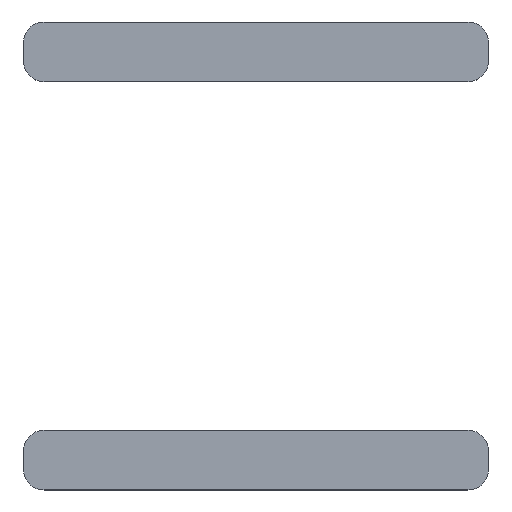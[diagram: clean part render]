
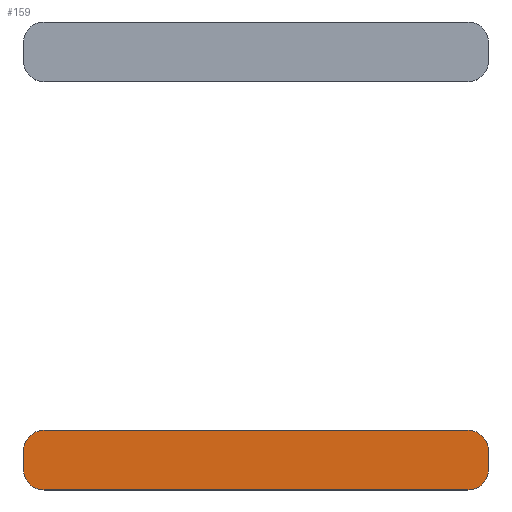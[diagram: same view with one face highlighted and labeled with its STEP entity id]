
A CAD part, top view. The second image highlights one B-rep face of the part: STEP entity #159.
In plain terms, the highlighted planar face has unit normal (0, 0, 1).
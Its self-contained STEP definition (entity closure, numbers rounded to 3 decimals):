
#43 = EDGE_CURVE('',#44,#46,#48,.T.);
#44 = VERTEX_POINT('',#45);
#45 = CARTESIAN_POINT('',(-14.8,-60.6,-2.3));
#46 = VERTEX_POINT('',#47);
#47 = CARTESIAN_POINT('',(-14.8,-59.4,-2.3));
#48 = SURFACE_CURVE('',#49,(#53,#65),.PCURVE_S1.);
#49 = LINE('',#50,#51);
#50 = CARTESIAN_POINT('',(-14.8,-61.9,-2.3));
#51 = VECTOR('',#52,1.);
#52 = DIRECTION('',(-0.,1.,0.));
#53 = PCURVE('',#54,#59);
#54 = PLANE('',#55);
#55 = AXIS2_PLACEMENT_3D('',#56,#57,#58);
#56 = CARTESIAN_POINT('',(-14.8,-61.9,-4.6));
#57 = DIRECTION('',(1.,0.,-0.));
#58 = DIRECTION('',(0.,0.,1.));
#59 = DEFINITIONAL_REPRESENTATION('',(#60),#64);
#60 = LINE('',#61,#62);
#61 = CARTESIAN_POINT('',(2.3,0.));
#62 = VECTOR('',#63,1.);
#63 = DIRECTION('',(0.,-1.));
#64 = ( GEOMETRIC_REPRESENTATION_CONTEXT(2) 
PARAMETRIC_REPRESENTATION_CONTEXT() REPRESENTATION_CONTEXT('2D SPACE',''
  ) );
#65 = PCURVE('',#66,#71);
#66 = PLANE('',#67);
#67 = AXIS2_PLACEMENT_3D('',#68,#69,#70);
#68 = CARTESIAN_POINT('',(-14.8,-61.9,-2.3));
#69 = DIRECTION('',(0.,0.,1.));
#70 = DIRECTION('',(1.,0.,-0.));
#71 = DEFINITIONAL_REPRESENTATION('',(#72),#76);
#72 = LINE('',#73,#74);
#73 = CARTESIAN_POINT('',(0.,0.));
#74 = VECTOR('',#75,1.);
#75 = DIRECTION('',(0.,1.));
#76 = ( GEOMETRIC_REPRESENTATION_CONTEXT(2) 
PARAMETRIC_REPRESENTATION_CONTEXT() REPRESENTATION_CONTEXT('2D SPACE',''
  ) );
#94 = CYLINDRICAL_SURFACE('',#95,1.3);
#95 = AXIS2_PLACEMENT_3D('',#96,#97,#98);
#96 = CARTESIAN_POINT('',(-13.5,-60.6,-4.6));
#97 = DIRECTION('',(0.,0.,1.));
#98 = DIRECTION('',(-1.,-0.,0.));
#148 = CYLINDRICAL_SURFACE('',#149,1.3);
#149 = AXIS2_PLACEMENT_3D('',#150,#151,#152);
#150 = CARTESIAN_POINT('',(-13.5,-59.4,-4.6));
#151 = DIRECTION('',(0.,0.,1.));
#152 = DIRECTION('',(-1.,-0.,0.));
#159 = ADVANCED_FACE('',(#160),#66,.T.);
#160 = FACE_BOUND('',#161,.T.);
#161 = EDGE_LOOP('',(#162,#163,#187,#215,#248,#276,#305,#333));
#162 = ORIENTED_EDGE('',*,*,#43,.F.);
#163 = ORIENTED_EDGE('',*,*,#164,.T.);
#164 = EDGE_CURVE('',#44,#165,#167,.T.);
#165 = VERTEX_POINT('',#166);
#166 = CARTESIAN_POINT('',(-13.5,-61.9,-2.3));
#167 = SURFACE_CURVE('',#168,(#173,#180),.PCURVE_S1.);
#168 = CIRCLE('',#169,1.3);
#169 = AXIS2_PLACEMENT_3D('',#170,#171,#172);
#170 = CARTESIAN_POINT('',(-13.5,-60.6,-2.3));
#171 = DIRECTION('',(0.,0.,1.));
#172 = DIRECTION('',(0.,-1.,0.));
#173 = PCURVE('',#66,#174);
#174 = DEFINITIONAL_REPRESENTATION('',(#175),#179);
#175 = CIRCLE('',#176,1.3);
#176 = AXIS2_PLACEMENT_2D('',#177,#178);
#177 = CARTESIAN_POINT('',(1.3,1.3));
#178 = DIRECTION('',(0.,-1.));
#179 = ( GEOMETRIC_REPRESENTATION_CONTEXT(2) 
PARAMETRIC_REPRESENTATION_CONTEXT() REPRESENTATION_CONTEXT('2D SPACE',''
  ) );
#180 = PCURVE('',#94,#181);
#181 = DEFINITIONAL_REPRESENTATION('',(#182),#186);
#182 = LINE('',#183,#184);
#183 = CARTESIAN_POINT('',(-4.712,2.3));
#184 = VECTOR('',#185,1.);
#185 = DIRECTION('',(1.,0.));
#186 = ( GEOMETRIC_REPRESENTATION_CONTEXT(2) 
PARAMETRIC_REPRESENTATION_CONTEXT() REPRESENTATION_CONTEXT('2D SPACE',''
  ) );
#187 = ORIENTED_EDGE('',*,*,#188,.T.);
#188 = EDGE_CURVE('',#165,#189,#191,.T.);
#189 = VERTEX_POINT('',#190);
#190 = CARTESIAN_POINT('',(13.5,-61.9,-2.3));
#191 = SURFACE_CURVE('',#192,(#196,#203),.PCURVE_S1.);
#192 = LINE('',#193,#194);
#193 = CARTESIAN_POINT('',(-14.8,-61.9,-2.3));
#194 = VECTOR('',#195,1.);
#195 = DIRECTION('',(1.,0.,-0.));
#196 = PCURVE('',#66,#197);
#197 = DEFINITIONAL_REPRESENTATION('',(#198),#202);
#198 = LINE('',#199,#200);
#199 = CARTESIAN_POINT('',(0.,0.));
#200 = VECTOR('',#201,1.);
#201 = DIRECTION('',(1.,0.));
#202 = ( GEOMETRIC_REPRESENTATION_CONTEXT(2) 
PARAMETRIC_REPRESENTATION_CONTEXT() REPRESENTATION_CONTEXT('2D SPACE',''
  ) );
#203 = PCURVE('',#204,#209);
#204 = PLANE('',#205);
#205 = AXIS2_PLACEMENT_3D('',#206,#207,#208);
#206 = CARTESIAN_POINT('',(-14.8,-61.9,-4.6));
#207 = DIRECTION('',(-0.,1.,0.));
#208 = DIRECTION('',(0.,0.,1.));
#209 = DEFINITIONAL_REPRESENTATION('',(#210),#214);
#210 = LINE('',#211,#212);
#211 = CARTESIAN_POINT('',(2.3,0.));
#212 = VECTOR('',#213,1.);
#213 = DIRECTION('',(0.,1.));
#214 = ( GEOMETRIC_REPRESENTATION_CONTEXT(2) 
PARAMETRIC_REPRESENTATION_CONTEXT() REPRESENTATION_CONTEXT('2D SPACE',''
  ) );
#215 = ORIENTED_EDGE('',*,*,#216,.F.);
#216 = EDGE_CURVE('',#217,#189,#219,.T.);
#217 = VERTEX_POINT('',#218);
#218 = CARTESIAN_POINT('',(14.8,-60.6,-2.3));
#219 = SURFACE_CURVE('',#220,(#225,#236),.PCURVE_S1.);
#220 = CIRCLE('',#221,1.3);
#221 = AXIS2_PLACEMENT_3D('',#222,#223,#224);
#222 = CARTESIAN_POINT('',(13.5,-60.6,-2.3));
#223 = DIRECTION('',(-0.,-0.,-1.));
#224 = DIRECTION('',(0.,-1.,0.));
#225 = PCURVE('',#66,#226);
#226 = DEFINITIONAL_REPRESENTATION('',(#227),#235);
#227 = ( BOUNDED_CURVE() B_SPLINE_CURVE(2,(#228,#229,#230,#231,#232,#233
,#234),.UNSPECIFIED.,.T.,.F.) B_SPLINE_CURVE_WITH_KNOTS((1,2,2,2,2,1),(
    -2.094,0.,2.094,4.189,6.283,
8.378),.UNSPECIFIED.) CURVE() GEOMETRIC_REPRESENTATION_ITEM() 
RATIONAL_B_SPLINE_CURVE((1.,0.5,1.,0.5,1.,0.5,1.)) REPRESENTATION_ITEM(
  '') );
#228 = CARTESIAN_POINT('',(28.3,0.));
#229 = CARTESIAN_POINT('',(26.048,0.));
#230 = CARTESIAN_POINT('',(27.174,1.95));
#231 = CARTESIAN_POINT('',(28.3,3.9));
#232 = CARTESIAN_POINT('',(29.426,1.95));
#233 = CARTESIAN_POINT('',(30.552,0.));
#234 = CARTESIAN_POINT('',(28.3,0.));
#235 = ( GEOMETRIC_REPRESENTATION_CONTEXT(2) 
PARAMETRIC_REPRESENTATION_CONTEXT() REPRESENTATION_CONTEXT('2D SPACE',''
  ) );
#236 = PCURVE('',#237,#242);
#237 = CYLINDRICAL_SURFACE('',#238,1.3);
#238 = AXIS2_PLACEMENT_3D('',#239,#240,#241);
#239 = CARTESIAN_POINT('',(13.5,-60.6,-4.6));
#240 = DIRECTION('',(0.,0.,1.));
#241 = DIRECTION('',(1.,0.,-0.));
#242 = DEFINITIONAL_REPRESENTATION('',(#243),#247);
#243 = LINE('',#244,#245);
#244 = CARTESIAN_POINT('',(4.712,2.3));
#245 = VECTOR('',#246,1.);
#246 = DIRECTION('',(-1.,0.));
#247 = ( GEOMETRIC_REPRESENTATION_CONTEXT(2) 
PARAMETRIC_REPRESENTATION_CONTEXT() REPRESENTATION_CONTEXT('2D SPACE',''
  ) );
#248 = ORIENTED_EDGE('',*,*,#249,.T.);
#249 = EDGE_CURVE('',#217,#250,#252,.T.);
#250 = VERTEX_POINT('',#251);
#251 = CARTESIAN_POINT('',(14.8,-59.4,-2.3));
#252 = SURFACE_CURVE('',#253,(#257,#264),.PCURVE_S1.);
#253 = LINE('',#254,#255);
#254 = CARTESIAN_POINT('',(14.8,-61.9,-2.3));
#255 = VECTOR('',#256,1.);
#256 = DIRECTION('',(-0.,1.,0.));
#257 = PCURVE('',#66,#258);
#258 = DEFINITIONAL_REPRESENTATION('',(#259),#263);
#259 = LINE('',#260,#261);
#260 = CARTESIAN_POINT('',(29.6,0.));
#261 = VECTOR('',#262,1.);
#262 = DIRECTION('',(0.,1.));
#263 = ( GEOMETRIC_REPRESENTATION_CONTEXT(2) 
PARAMETRIC_REPRESENTATION_CONTEXT() REPRESENTATION_CONTEXT('2D SPACE',''
  ) );
#264 = PCURVE('',#265,#270);
#265 = PLANE('',#266);
#266 = AXIS2_PLACEMENT_3D('',#267,#268,#269);
#267 = CARTESIAN_POINT('',(14.8,-61.9,-4.6));
#268 = DIRECTION('',(1.,0.,-0.));
#269 = DIRECTION('',(0.,0.,1.));
#270 = DEFINITIONAL_REPRESENTATION('',(#271),#275);
#271 = LINE('',#272,#273);
#272 = CARTESIAN_POINT('',(2.3,0.));
#273 = VECTOR('',#274,1.);
#274 = DIRECTION('',(0.,-1.));
#275 = ( GEOMETRIC_REPRESENTATION_CONTEXT(2) 
PARAMETRIC_REPRESENTATION_CONTEXT() REPRESENTATION_CONTEXT('2D SPACE',''
  ) );
#276 = ORIENTED_EDGE('',*,*,#277,.T.);
#277 = EDGE_CURVE('',#250,#278,#280,.T.);
#278 = VERTEX_POINT('',#279);
#279 = CARTESIAN_POINT('',(13.5,-58.1,-2.3));
#280 = SURFACE_CURVE('',#281,(#286,#293),.PCURVE_S1.);
#281 = CIRCLE('',#282,1.3);
#282 = AXIS2_PLACEMENT_3D('',#283,#284,#285);
#283 = CARTESIAN_POINT('',(13.5,-59.4,-2.3));
#284 = DIRECTION('',(0.,0.,1.));
#285 = DIRECTION('',(0.,-1.,0.));
#286 = PCURVE('',#66,#287);
#287 = DEFINITIONAL_REPRESENTATION('',(#288),#292);
#288 = CIRCLE('',#289,1.3);
#289 = AXIS2_PLACEMENT_2D('',#290,#291);
#290 = CARTESIAN_POINT('',(28.3,2.5));
#291 = DIRECTION('',(0.,-1.));
#292 = ( GEOMETRIC_REPRESENTATION_CONTEXT(2) 
PARAMETRIC_REPRESENTATION_CONTEXT() REPRESENTATION_CONTEXT('2D SPACE',''
  ) );
#293 = PCURVE('',#294,#299);
#294 = CYLINDRICAL_SURFACE('',#295,1.3);
#295 = AXIS2_PLACEMENT_3D('',#296,#297,#298);
#296 = CARTESIAN_POINT('',(13.5,-59.4,-4.6));
#297 = DIRECTION('',(0.,0.,1.));
#298 = DIRECTION('',(1.,0.,-0.));
#299 = DEFINITIONAL_REPRESENTATION('',(#300),#304);
#300 = LINE('',#301,#302);
#301 = CARTESIAN_POINT('',(-1.571,2.3));
#302 = VECTOR('',#303,1.);
#303 = DIRECTION('',(1.,0.));
#304 = ( GEOMETRIC_REPRESENTATION_CONTEXT(2) 
PARAMETRIC_REPRESENTATION_CONTEXT() REPRESENTATION_CONTEXT('2D SPACE',''
  ) );
#305 = ORIENTED_EDGE('',*,*,#306,.F.);
#306 = EDGE_CURVE('',#307,#278,#309,.T.);
#307 = VERTEX_POINT('',#308);
#308 = CARTESIAN_POINT('',(-13.5,-58.1,-2.3));
#309 = SURFACE_CURVE('',#310,(#314,#321),.PCURVE_S1.);
#310 = LINE('',#311,#312);
#311 = CARTESIAN_POINT('',(-14.8,-58.1,-2.3));
#312 = VECTOR('',#313,1.);
#313 = DIRECTION('',(1.,0.,-0.));
#314 = PCURVE('',#66,#315);
#315 = DEFINITIONAL_REPRESENTATION('',(#316),#320);
#316 = LINE('',#317,#318);
#317 = CARTESIAN_POINT('',(0.,3.8));
#318 = VECTOR('',#319,1.);
#319 = DIRECTION('',(1.,0.));
#320 = ( GEOMETRIC_REPRESENTATION_CONTEXT(2) 
PARAMETRIC_REPRESENTATION_CONTEXT() REPRESENTATION_CONTEXT('2D SPACE',''
  ) );
#321 = PCURVE('',#322,#327);
#322 = PLANE('',#323);
#323 = AXIS2_PLACEMENT_3D('',#324,#325,#326);
#324 = CARTESIAN_POINT('',(-14.8,-58.1,-4.6));
#325 = DIRECTION('',(-0.,1.,0.));
#326 = DIRECTION('',(0.,0.,1.));
#327 = DEFINITIONAL_REPRESENTATION('',(#328),#332);
#328 = LINE('',#329,#330);
#329 = CARTESIAN_POINT('',(2.3,0.));
#330 = VECTOR('',#331,1.);
#331 = DIRECTION('',(0.,1.));
#332 = ( GEOMETRIC_REPRESENTATION_CONTEXT(2) 
PARAMETRIC_REPRESENTATION_CONTEXT() REPRESENTATION_CONTEXT('2D SPACE',''
  ) );
#333 = ORIENTED_EDGE('',*,*,#334,.F.);
#334 = EDGE_CURVE('',#46,#307,#335,.T.);
#335 = SURFACE_CURVE('',#336,(#341,#352),.PCURVE_S1.);
#336 = CIRCLE('',#337,1.3);
#337 = AXIS2_PLACEMENT_3D('',#338,#339,#340);
#338 = CARTESIAN_POINT('',(-13.5,-59.4,-2.3));
#339 = DIRECTION('',(-0.,-0.,-1.));
#340 = DIRECTION('',(0.,-1.,0.));
#341 = PCURVE('',#66,#342);
#342 = DEFINITIONAL_REPRESENTATION('',(#343),#351);
#343 = ( BOUNDED_CURVE() B_SPLINE_CURVE(2,(#344,#345,#346,#347,#348,#349
,#350),.UNSPECIFIED.,.T.,.F.) B_SPLINE_CURVE_WITH_KNOTS((1,2,2,2,2,1),(
    -2.094,0.,2.094,4.189,6.283,
8.378),.UNSPECIFIED.) CURVE() GEOMETRIC_REPRESENTATION_ITEM() 
RATIONAL_B_SPLINE_CURVE((1.,0.5,1.,0.5,1.,0.5,1.)) REPRESENTATION_ITEM(
  '') );
#344 = CARTESIAN_POINT('',(1.3,1.2));
#345 = CARTESIAN_POINT('',(-0.952,1.2));
#346 = CARTESIAN_POINT('',(0.174,3.15));
#347 = CARTESIAN_POINT('',(1.3,5.1));
#348 = CARTESIAN_POINT('',(2.426,3.15));
#349 = CARTESIAN_POINT('',(3.552,1.2));
#350 = CARTESIAN_POINT('',(1.3,1.2));
#351 = ( GEOMETRIC_REPRESENTATION_CONTEXT(2) 
PARAMETRIC_REPRESENTATION_CONTEXT() REPRESENTATION_CONTEXT('2D SPACE',''
  ) );
#352 = PCURVE('',#148,#353);
#353 = DEFINITIONAL_REPRESENTATION('',(#354),#358);
#354 = LINE('',#355,#356);
#355 = CARTESIAN_POINT('',(1.571,2.3));
#356 = VECTOR('',#357,1.);
#357 = DIRECTION('',(-1.,0.));
#358 = ( GEOMETRIC_REPRESENTATION_CONTEXT(2) 
PARAMETRIC_REPRESENTATION_CONTEXT() REPRESENTATION_CONTEXT('2D SPACE',''
  ) );
